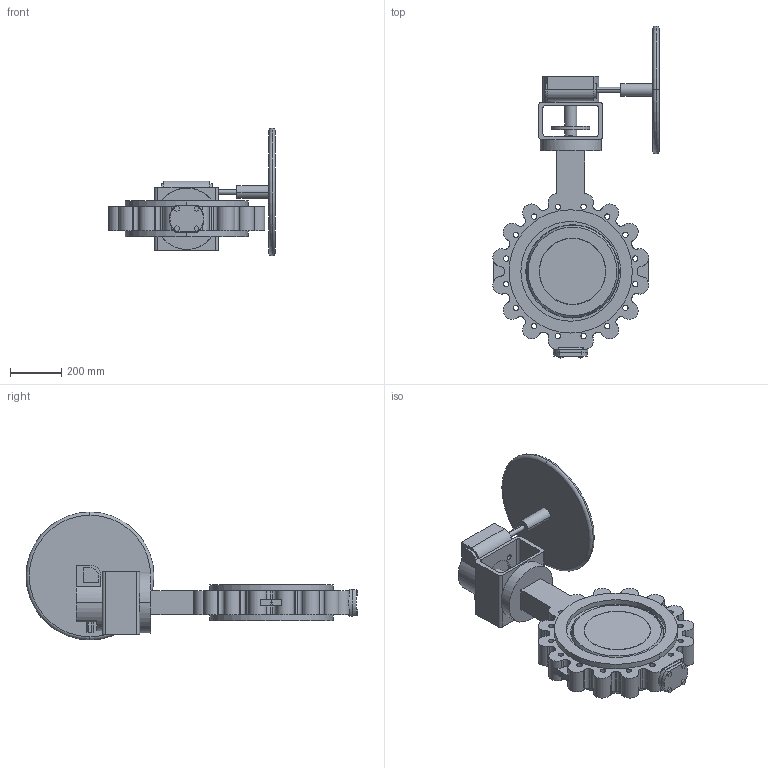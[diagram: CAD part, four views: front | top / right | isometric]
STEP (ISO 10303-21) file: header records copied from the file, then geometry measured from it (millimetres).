
FILE_DESCRIPTION( ( '' ), '1' );
FILE_NAME( 'F:/DE-SHS/TB/OR/04-Sonstiges/daten/Excel/mneugeba/018_ZETRIX-PN10_Getriebe-Rotork/c000006425.stp', '2016-09-19T06:22:13', ( '' ), ( '' ), ' ', ' ', ' ' );
FILE_SCHEMA( ( 'CONFIG_CONTROL_DESIGN' ) );
Length unit declared in the file: millimetre
Products named in the file (2): 1; 2
Bounding box: 650.65 x 1297.7 x 500 mm (x, y, z)
Volume: 38807567.3 mm3; surface area: 2345741.8 mm2
Topology: 2 solids, 2 shells, 362 faces, 989 edges, 659 vertices
Faces by surface type: cylinder 210, plane 140, sphere 4, cone 4, torus 4
Entity records: 12740 total; most frequent: CARTESIAN_POINT 2963, DIRECTION 2148, ORIENTED_EDGE 1978, EDGE_CURVE 989, AXIS2_PLACEMENT_3D 830, VERTEX_POINT 659, LINE 488, VECTOR 488
